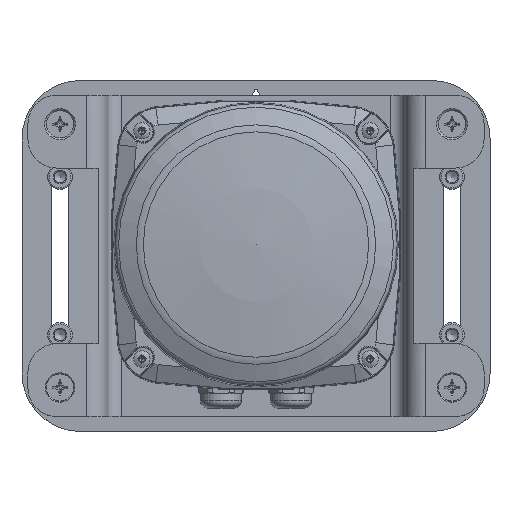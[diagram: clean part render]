
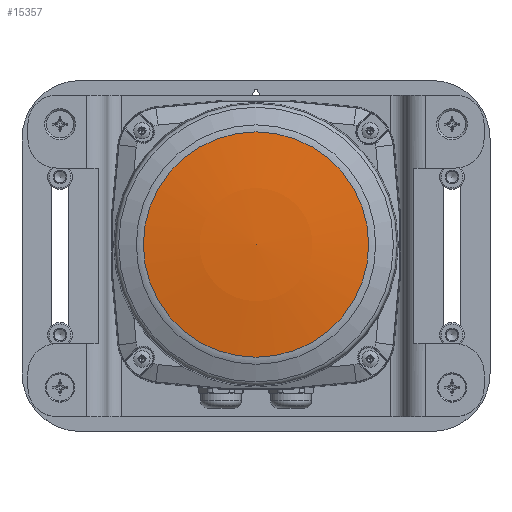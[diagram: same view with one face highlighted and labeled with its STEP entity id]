
A CAD part, top view. The second image highlights one B-rep face of the part: STEP entity #15357.
In plain terms, the highlighted spherical face has radius 288 mm.
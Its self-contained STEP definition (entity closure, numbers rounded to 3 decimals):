
#115=SPHERICAL_SURFACE('',#57752,288.);
#12669=FACE_OUTER_BOUND('',#21791,.T.);
#15357=ADVANCED_FACE('',(#12669),#115,.T.);
#18369=CIRCLE('',#57751,38.519);
#21791=EDGE_LOOP('',(#36083));
#36083=ORIENTED_EDGE('',*,*,#50365,.T.);
#44867=VERTEX_POINT('',#91432);
#50365=EDGE_CURVE('',#44867,#44867,#18369,.T.);
#57751=AXIS2_PLACEMENT_3D('',#91431,#65450,#65451);
#57752=AXIS2_PLACEMENT_3D('',#91433,#65452,#65453);
#65450=DIRECTION('',(0.,0.,1.));
#65451=DIRECTION('',(0.,-1.,0.));
#65452=DIRECTION('',(0.,0.,1.));
#65453=DIRECTION('',(0.,1.,0.));
#91431=CARTESIAN_POINT('',(0.,0.,81.982));
#91432=CARTESIAN_POINT('',(0.,-38.519,81.982));
#91433=CARTESIAN_POINT('',(0.,0.,-203.43));
